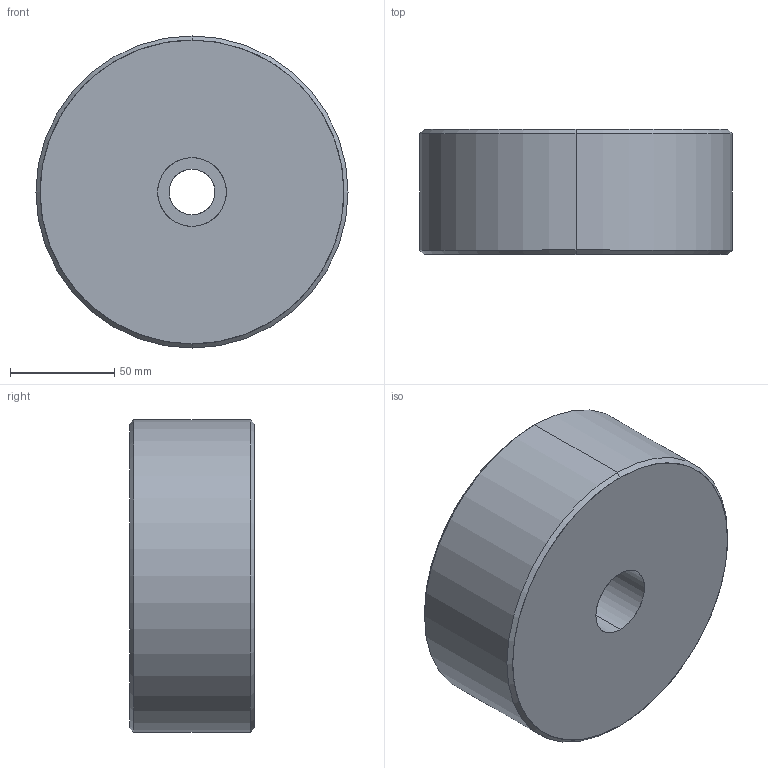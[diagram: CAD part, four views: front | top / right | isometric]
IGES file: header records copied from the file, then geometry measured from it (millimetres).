
Start section: START RECORD GO HERE.
Global section: file name: 758+150+60+15.igs; native system: DASSAULT SYSTEMES CATIA V5 R20 - www.3ds.com; preprocessor: CATIA Version 5 Release 20 ; author: Utente; organization: NB04-ASUS; date: 20201028.203307; units: millimetre
Bounding box: 150 x 60 x 150 mm (x, y, z)
Surface area: 67444.4 mm2 (no closed solid volume)
Topology: 0 solids, 0 shells, 13 faces, 52 edges, 52 vertices
Faces by surface type: revolution 10, plane 3
